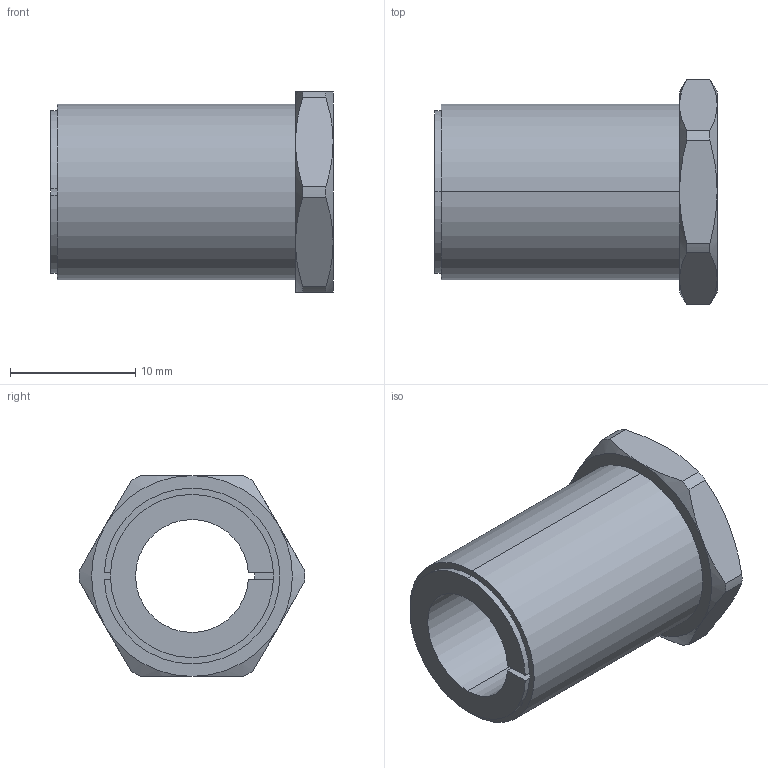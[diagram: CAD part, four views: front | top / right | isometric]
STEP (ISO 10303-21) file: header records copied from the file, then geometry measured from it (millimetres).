
FILE_DESCRIPTION (( 'STEP AP203' ), '1' );
FILE_NAME ('KBS 57 - 9 x 14.STEP', '2015-07-05T18:31:34', ( '' ), ( '' ), 'SwSTEP 2.0', 'SolidWorks 2010', '' );
FILE_SCHEMA (( 'CONFIG_CONTROL_DESIGN' ));
Length unit declared in the file: millimetre
Products named in the file (1): KBS 57 - 9 x 14
Bounding box: 22.5 x 18 x 16 mm (x, y, z)
Volume: 2180.5 mm3; surface area: 2060.5 mm2
Topology: 1 solids, 1 shells, 47 faces, 118 edges, 74 vertices
Faces by surface type: cylinder 16, plane 16, cone 15
Entity records: 1597 total; most frequent: CARTESIAN_POINT 396, DIRECTION 240, ORIENTED_EDGE 236, EDGE_CURVE 118, AXIS2_PLACEMENT_3D 100, VERTEX_POINT 74, CIRCLE 52, EDGE_LOOP 50
